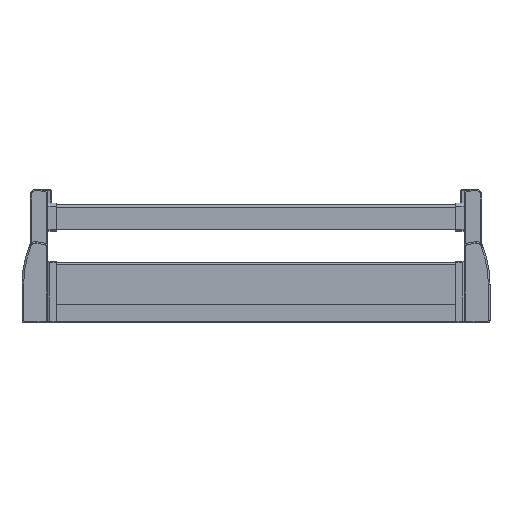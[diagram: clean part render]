
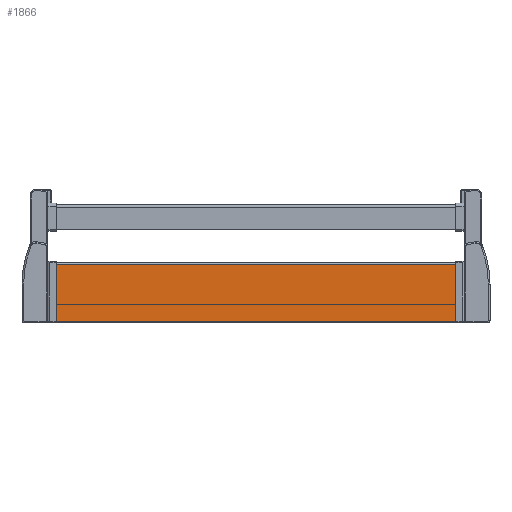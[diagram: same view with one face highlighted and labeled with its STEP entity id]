
A CAD part, top view. The second image highlights one B-rep face of the part: STEP entity #1866.
In plain terms, the highlighted planar face has unit normal (0, 0, 1).
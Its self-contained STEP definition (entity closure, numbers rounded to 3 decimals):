
#1862 = EDGE_CURVE ( 'NONE', #1952, #1863, #5456, .T. ) ;
#1863 = VERTEX_POINT ( 'NONE', #5409 ) ;
#1866 = ADVANCED_FACE ( 'NONE', ( #5398 ), #5397, .F. ) ;
#1867 = EDGE_LOOP ( 'NONE', ( #1868, #1869, #1870, #1873 ) ) ;
#1868 = ORIENTED_EDGE ( 'NONE', *, *, #1862, .F. ) ;
#1869 = ORIENTED_EDGE ( 'NONE', *, *, #1951, .T. ) ;
#1870 = ORIENTED_EDGE ( 'NONE', *, *, #1871, .T. ) ;
#1871 = EDGE_CURVE ( 'NONE', #1906, #1872, #5393, .T. ) ;
#1872 = VERTEX_POINT ( 'NONE', #5382 ) ;
#1873 = ORIENTED_EDGE ( 'NONE', *, *, #1874, .F. ) ;
#1874 = EDGE_CURVE ( 'NONE', #1863, #1872, #5376, .T. ) ;
#1906 = VERTEX_POINT ( 'NONE', #5774 ) ;
#1951 = EDGE_CURVE ( 'NONE', #1952, #1906, #6086, .T. ) ;
#1952 = VERTEX_POINT ( 'NONE', #6081 ) ;
#5372 = DIRECTION ( 'NONE',  ( 0., 1., 0. ) ) ;
#5373 = VECTOR ( 'NONE', #5372, 1000. ) ;
#5375 = CARTESIAN_POINT ( 'NONE',  ( -238.8, -92.5, 1.4 ) ) ;
#5376 = LINE ( 'NONE', #5375, #5373 ) ;
#5382 = CARTESIAN_POINT ( 'NONE',  ( -238.8, -23., 1.4 ) ) ;
#5383 = DIRECTION ( 'NONE',  ( -1., 0., 0. ) ) ;
#5384 = VECTOR ( 'NONE', #5383, 1000. ) ;
#5386 = CARTESIAN_POINT ( 'NONE',  ( 312.556, -23., 1.4 ) ) ;
#5390 = DIRECTION ( 'NONE',  ( 0., 1., 0. ) ) ;
#5391 = DIRECTION ( 'NONE',  ( 0., 0., -1. ) ) ;
#5392 = CARTESIAN_POINT ( 'NONE',  ( 312.556, -92.5, 1.4 ) ) ;
#5393 = LINE ( 'NONE', #5386, #5384 ) ;
#5396 = AXIS2_PLACEMENT_3D ( 'NONE', #5392, #5391, #5390 ) ;
#5397 = PLANE ( 'NONE',  #5396 ) ;
#5398 = FACE_OUTER_BOUND ( 'NONE', #1867, .T. ) ;
#5409 = CARTESIAN_POINT ( 'NONE',  ( -238.8, -92.5, 1.4 ) ) ;
#5411 = DIRECTION ( 'NONE',  ( -1., 0., 0. ) ) ;
#5413 = VECTOR ( 'NONE', #5411, 1000. ) ;
#5414 = CARTESIAN_POINT ( 'NONE',  ( 312.556, -92.5, 1.4 ) ) ;
#5456 = LINE ( 'NONE', #5414, #5413 ) ;
#5774 = CARTESIAN_POINT ( 'NONE',  ( 238.8, -23., 1.4 ) ) ;
#6081 = CARTESIAN_POINT ( 'NONE',  ( 238.8, -92.5, 1.4 ) ) ;
#6082 = DIRECTION ( 'NONE',  ( 0., 1., 0. ) ) ;
#6083 = VECTOR ( 'NONE', #6082, 1000. ) ;
#6085 = CARTESIAN_POINT ( 'NONE',  ( 238.8, -92.5, 1.4 ) ) ;
#6086 = LINE ( 'NONE', #6085, #6083 ) ;
